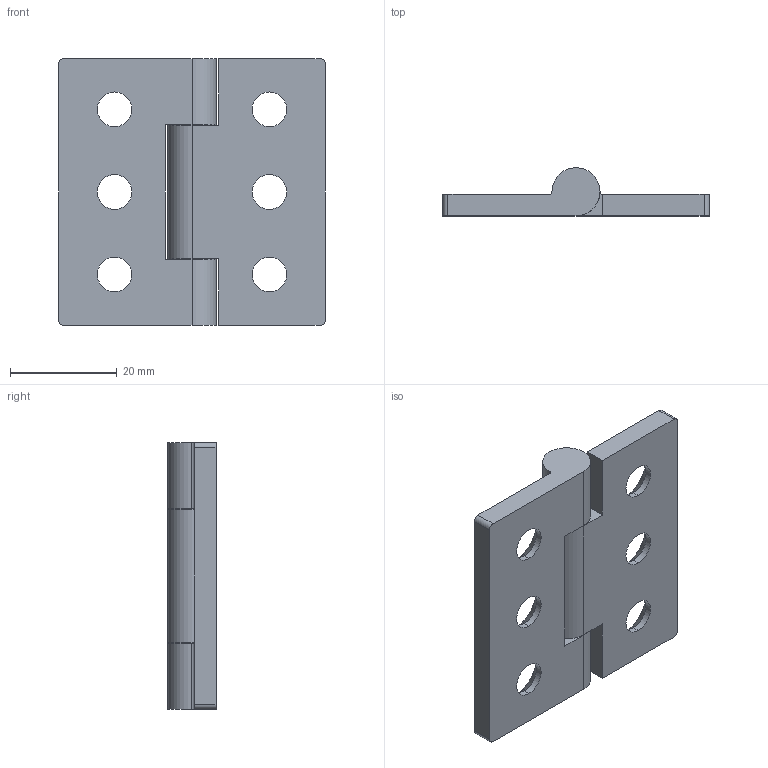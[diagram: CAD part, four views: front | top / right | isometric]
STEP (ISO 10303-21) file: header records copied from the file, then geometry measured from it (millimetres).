
FILE_DESCRIPTION (( 'STEP AP203' ), '1' );
FILE_NAME ('XG02-100.STEP', '2024-03-21T08:10:34', ( '' ), ( '' ), 'SwSTEP 2.0', 'SolidWorks 2020', '' );
FILE_SCHEMA (( 'CONFIG_CONTROL_DESIGN' ));
Length unit declared in the file: millimetre
Products named in the file (1): XG02-100
Bounding box: 50 x 9 x 50 mm (x, y, z)
Volume: 10093 mm3; surface area: 6630 mm2
Topology: 2 solids, 2 shells, 51 faces, 125 edges, 78 vertices
Faces by surface type: cylinder 22, plane 17, cone 12
Entity records: 1606 total; most frequent: DIRECTION 285, CARTESIAN_POINT 255, ORIENTED_EDGE 250, EDGE_CURVE 125, AXIS2_PLACEMENT_3D 108, VERTEX_POINT 78, VECTOR 69, LINE 69
